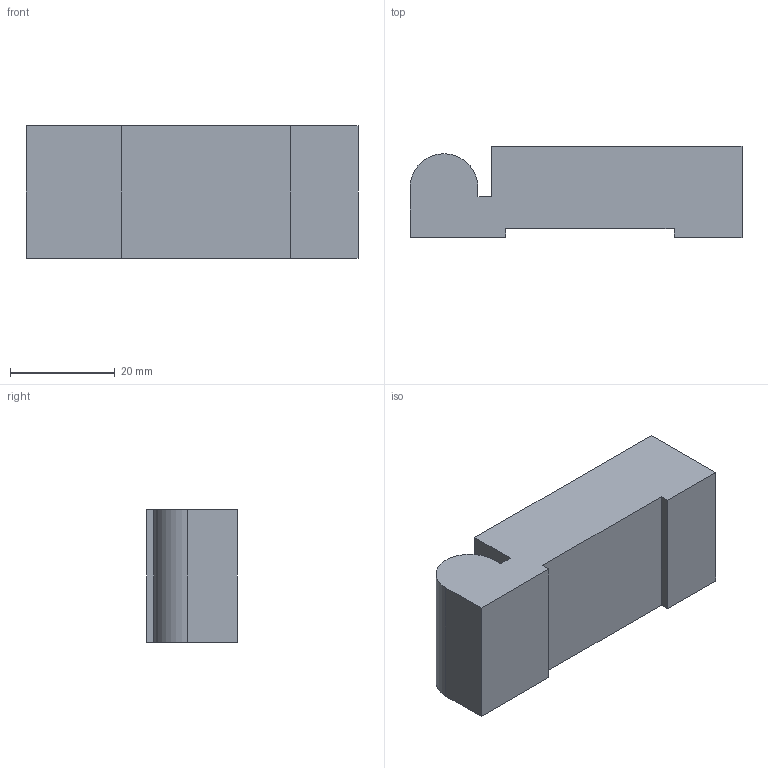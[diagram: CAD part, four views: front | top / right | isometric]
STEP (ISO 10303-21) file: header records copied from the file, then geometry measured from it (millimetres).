
FILE_DESCRIPTION (( 'STEP AP203' ), '1' );
FILE_NAME ('AB110-2FJ.STEP', '2023-08-25T14:13:31', ( '' ), ( '' ), 'SwSTEP 2.0', 'SolidWorks 2020', '' );
FILE_SCHEMA (( 'CONFIG_CONTROL_DESIGN' ));
Length unit declared in the file: inch
Products named in the file (1): AB110-2FJ
Bounding box: 63.5 x 17.4 x 25.4 mm (x, y, z)
Volume: 25096.6 mm3; surface area: 6449.8 mm2
Topology: 1 solids, 1 shells, 14 faces, 36 edges, 24 vertices
Faces by surface type: plane 13, cylinder 1
Entity records: 501 total; most frequent: CARTESIAN_POINT 75, ORIENTED_EDGE 72, DIRECTION 68, EDGE_CURVE 36, VECTOR 34, LINE 34, VERTEX_POINT 24, AXIS2_PLACEMENT_3D 17
